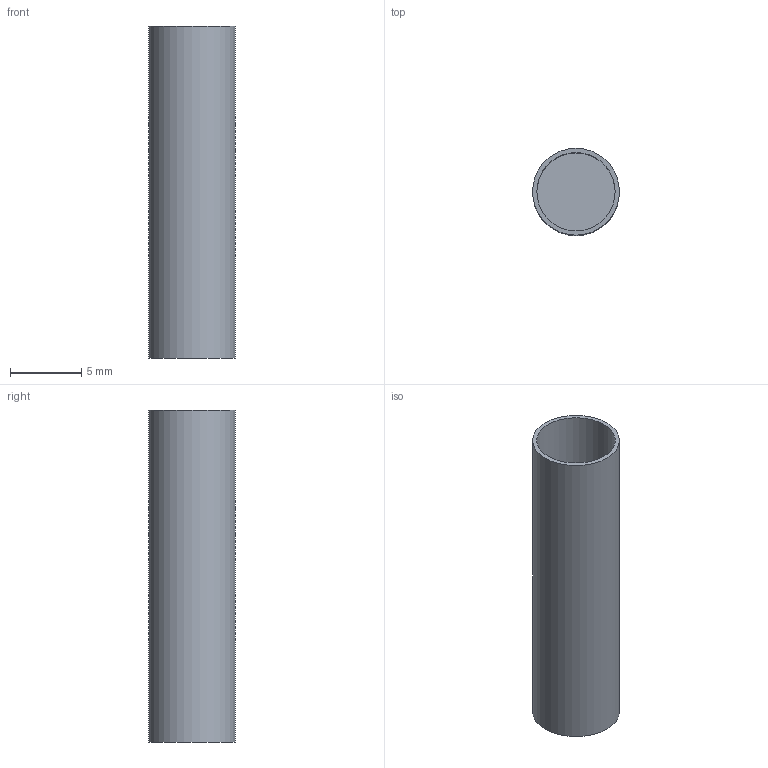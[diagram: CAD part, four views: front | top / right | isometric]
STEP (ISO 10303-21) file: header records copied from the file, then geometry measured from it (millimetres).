
FILE_DESCRIPTION(/* description */ (''),/* implementation_level */ '2;1');
FILE_NAME(/* name */ '2.1 x 5.5 Female insert.stp',/* time_stamp */ '2026-07-13T09:09:11+03:00',/* author */ ('USER'),/* organization */ (''),/* preprocessor_version */ 'ST-DEVELOPER v20',/* originating_system */ 'Autodesk Inventor 2025',/* authorisation */ '');
FILE_SCHEMA (('AUTOMOTIVE_DESIGN { 1 0 10303 214 3 1 1 }'));
Length unit declared in the file: millimetre
Products named in the file (1): 2.1 x 5.5 Female insert
Bounding box: 6.1 x 6.1 x 23.3 mm (x, y, z)
Volume: 151.1 mm3; surface area: 890.3 mm2
Topology: 1 solids, 1 shells, 5 faces, 6 edges, 4 vertices
Faces by surface type: plane 3, cylinder 2
Full cylindrical faces by diameter (mm): 5.5 x1, 6.1 x1
Entity records: 147 total; most frequent: DIRECTION 22, CARTESIAN_POINT 16, ORIENTED_EDGE 12, AXIS2_PLACEMENT_3D 10, EDGE_LOOP 6, EDGE_CURVE 6, FACE_OUTER_BOUND 5, ADVANCED_FACE 5
